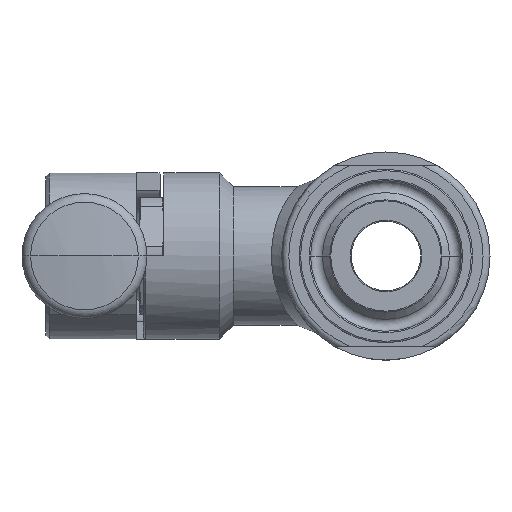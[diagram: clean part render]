
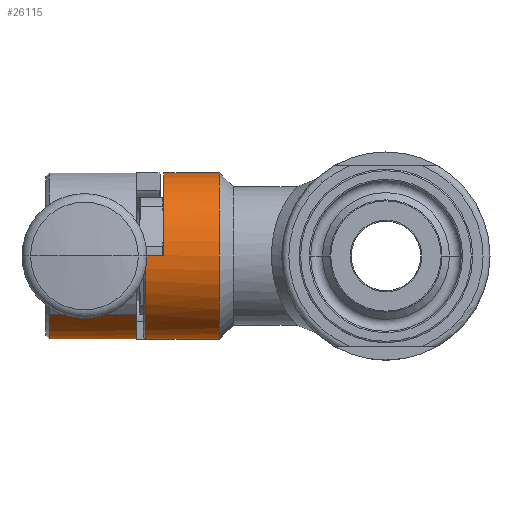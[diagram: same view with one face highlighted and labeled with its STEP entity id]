
A CAD part, left-side view. The second image highlights one B-rep face of the part: STEP entity #26115.
In plain terms, the highlighted cylindrical face has radius 12 mm (diameter 24 mm), a partial arc.
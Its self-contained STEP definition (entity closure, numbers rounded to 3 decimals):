
#1600=CARTESIAN_POINT('',(0.1,32.7,-12.));
#1725=CARTESIAN_POINT('',(0.,32.,0.));
#1726=DIRECTION('',(0.,-1.,0.));
#1727=DIRECTION('',(0.,0.,1.));
#1728=AXIS2_PLACEMENT_3D('',#1725,#1726,#1727);
#1788=CARTESIAN_POINT('',(0.,32.,0.));
#1789=DIRECTION('',(0.,1.,0.));
#1790=DIRECTION('',(0.008,0.,-1.));
#1791=AXIS2_PLACEMENT_3D('',#1788,#1789,#1790);
#1796=DIRECTION('',(0.,1.,0.));
#1797=VECTOR('',#1796,8.);
#1798=CARTESIAN_POINT('',(0.,24.,-12.));
#1799=LINE('',#1798,#1797);
#1811=DIRECTION('',(0.,1.,0.));
#1812=VECTOR('',#1811,8.);
#1813=CARTESIAN_POINT('',(0.,24.,12.));
#1814=LINE('',#1813,#1812);
#1818=DIRECTION('',(0.,-1.,0.));
#1819=VECTOR('',#1818,1.3);
#1820=CARTESIAN_POINT('',(0.,36.,-12.));
#1821=LINE('',#1820,#1819);
#1825=CARTESIAN_POINT('',(0.,34.7,0.));
#1826=DIRECTION('',(0.,1.,0.));
#1827=DIRECTION('',(0.,0.,-1.));
#1828=AXIS2_PLACEMENT_3D('',#1825,#1826,#1827);
#1833=CARTESIAN_POINT('',(0.,24.,0.));
#1834=DIRECTION('',(0.,-1.,0.));
#1835=DIRECTION('',(0.,0.,1.));
#1836=AXIS2_PLACEMENT_3D('',#1833,#1834,#1835);
#1841=DIRECTION('',(0.,1.,0.));
#1842=VECTOR('',#1841,0.7);
#1843=CARTESIAN_POINT('',(0.1,32.,-12.));
#1844=LINE('',#1843,#1842);
#1848=CARTESIAN_POINT('',(0.,32.7,0.));
#1849=DIRECTION('',(0.,1.,0.));
#1850=DIRECTION('',(0.707,0.,0.707));
#1851=AXIS2_PLACEMENT_3D('',#1848,#1849,#1850);
#1856=DIRECTION('',(0.,1.,0.));
#1857=VECTOR('',#1856,15.8);
#1858=CARTESIAN_POINT('',(8.485,32.7,8.485));
#1859=LINE('',#1858,#1857);
#1863=CARTESIAN_POINT('',(0.,48.5,0.));
#1864=DIRECTION('',(0.,1.,0.));
#1865=DIRECTION('',(0.707,0.,0.707));
#1866=AXIS2_PLACEMENT_3D('',#1863,#1864,#1865);
#1871=DIRECTION('',(0.,1.,0.));
#1872=VECTOR('',#1871,12.5);
#1873=CARTESIAN_POINT('',(-8.485,36.,-8.485));
#1874=LINE('',#1873,#1872);
#1878=CARTESIAN_POINT('',(0.,36.,0.));
#1879=DIRECTION('',(0.,-1.,0.));
#1880=DIRECTION('',(-0.707,0.,-0.707));
#1881=AXIS2_PLACEMENT_3D('',#1878,#1879,#1880);
#1933=DIRECTION('',(0.,1.,0.));
#1934=VECTOR('',#1933,2.7);
#1935=CARTESIAN_POINT('',(-12.,32.,0.1));
#1936=LINE('',#1935,#1934);
#1945=CARTESIAN_POINT('',(-12.,34.7,
0.1));
#22929=CARTESIAN_POINT('',(-12.,32.,0.1));
#22930=VERTEX_POINT('',#22929);
#22931=CARTESIAN_POINT('',(0.1,32.,-12.));
#22932=VERTEX_POINT('',#22931);
#22934=CARTESIAN_POINT('',(0.,24.,12.));
#22936=VERTEX_POINT('',#22934);
#22937=CARTESIAN_POINT('',(0.,32.,12.));
#22938=VERTEX_POINT('',#22937);
#22940=CARTESIAN_POINT('',(0.,24.,-12.));
#22942=VERTEX_POINT('',#22940);
#22943=CARTESIAN_POINT('',(0.,32.,-12.));
#22944=VERTEX_POINT('',#22943);
#22946=VERTEX_POINT('',#1945);
#23838=CARTESIAN_POINT('',(0.,36.,-12.));
#23839=VERTEX_POINT('',#23838);
#23842=CARTESIAN_POINT('',(-8.485,36.,-8.485));
#23843=VERTEX_POINT('',#23842);
#24324=CARTESIAN_POINT('',(-8.485,48.5,-8.485));
#24325=CARTESIAN_POINT('',(8.485,48.5,8.485));
#24326=VERTEX_POINT('',#24324);
#24327=VERTEX_POINT('',#24325);
#24336=CARTESIAN_POINT('',(8.485,32.7,8.485));
#24337=VERTEX_POINT('',#24336);
#24478=VERTEX_POINT('',#1600);
#24480=CARTESIAN_POINT('',(0.,34.7,-12.));
#24481=VERTEX_POINT('',#24480);
#26086=CARTESIAN_POINT('',(0.,49.825,0.));
#26087=DIRECTION('',(0.,-1.,0.));
#26088=DIRECTION('',(-0.707,0.,-0.707));
#26089=AXIS2_PLACEMENT_3D('',#26086,#26087,#26088);
#26090=CYLINDRICAL_SURFACE('',#26089,12.);
#26092=ORIENTED_EDGE('',*,*,#26091,.T.);
#26094=ORIENTED_EDGE('',*,*,#26093,.T.);
#26096=ORIENTED_EDGE('',*,*,#26095,.F.);
#26097=ORIENTED_EDGE('',*,*,#26048,.F.);
#26098=ORIENTED_EDGE('',*,*,#26080,.F.);
#26100=ORIENTED_EDGE('',*,*,#26099,.T.);
#26101=ORIENTED_EDGE('',*,*,#26076,.T.);
#26102=ORIENTED_EDGE('',*,*,#26074,.F.);
#26103=ORIENTED_EDGE('',*,*,#25930,.T.);
#26105=ORIENTED_EDGE('',*,*,#26104,.F.);
#26107=ORIENTED_EDGE('',*,*,#26106,.T.);
#26109=ORIENTED_EDGE('',*,*,#26108,.T.);
#26111=ORIENTED_EDGE('',*,*,#26110,.F.);
#26112=ORIENTED_EDGE('',*,*,#25995,.T.);
#26113=EDGE_LOOP('',(#26092,#26094,#26096,#26097,#26098,#26100,#26101,#26102,
#26103,#26105,#26107,#26109,#26111,#26112));
#26114=FACE_OUTER_BOUND('',#26113,.F.);
#26115=ADVANCED_FACE('',(#26114),#26090,.T.);
#1729=CIRCLE('',#1728,12.);
#1792=CIRCLE('',#1791,12.);
#1829=CIRCLE('',#1828,12.);
#1837=CIRCLE('',#1836,12.);
#1852=CIRCLE('',#1851,12.);
#1867=CIRCLE('',#1866,12.);
#1882=CIRCLE('',#1881,12.);
#25930=EDGE_CURVE('',#22932,#24478,#1844,.T.);
#25995=EDGE_CURVE('',#23843,#23839,#1882,.T.);
#26048=EDGE_CURVE('',#22938,#22930,#1729,.T.);
#26074=EDGE_CURVE('',#22932,#22944,#1792,.T.);
#26076=EDGE_CURVE('',#22942,#22944,#1799,.T.);
#26080=EDGE_CURVE('',#22936,#22938,#1814,.T.);
#26091=EDGE_CURVE('',#23839,#24481,#1821,.T.);
#26093=EDGE_CURVE('',#24481,#22946,#1829,.T.);
#26095=EDGE_CURVE('',#22930,#22946,#1936,.T.);
#26099=EDGE_CURVE('',#22936,#22942,#1837,.T.);
#26104=EDGE_CURVE('',#24337,#24478,#1852,.T.);
#26106=EDGE_CURVE('',#24337,#24327,#1859,.T.);
#26108=EDGE_CURVE('',#24327,#24326,#1867,.T.);
#26110=EDGE_CURVE('',#23843,#24326,#1874,.T.);
